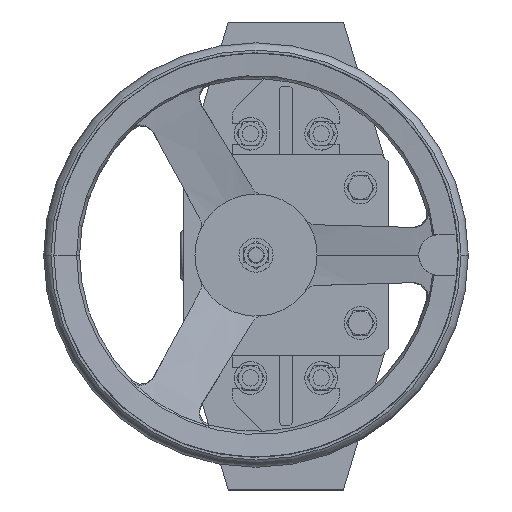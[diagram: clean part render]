
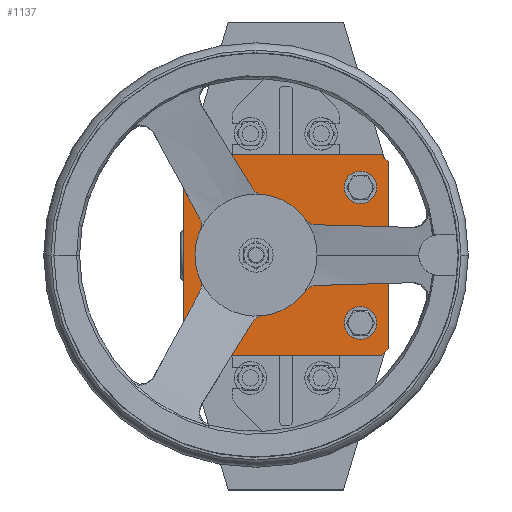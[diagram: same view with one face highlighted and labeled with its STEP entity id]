
A CAD part, top view. The second image highlights one B-rep face of the part: STEP entity #1137.
In plain terms, the highlighted planar face has unit normal (0, 0, 1).
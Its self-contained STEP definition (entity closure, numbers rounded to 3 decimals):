
#1137=ADVANCED_FACE('',(#3106,#3107,#3108,#3109,#3110,#3111),#3112,.T.);
#3106=FACE_BOUND('',#8298,.T.);
#3107=FACE_OUTER_BOUND('',#8299,.T.);
#3108=FACE_BOUND('',#8300,.T.);
#3109=FACE_BOUND('',#8301,.T.);
#3110=FACE_BOUND('',#8302,.T.);
#3111=FACE_BOUND('',#8303,.T.);
#3112=PLANE('',#8304);
#8298=EDGE_LOOP('',(#15369,#15370));
#8299=EDGE_LOOP('',(#15371,#15372,#15373,#15374,#15375,#15376,#15377,#15378));
#8300=EDGE_LOOP('',(#15379,#15380));
#8301=EDGE_LOOP('',(#15381,#15382));
#8302=EDGE_LOOP('',(#15383,#15384));
#8303=EDGE_LOOP('',(#15385,#15386));
#8304=AXIS2_PLACEMENT_3D('',#15387,#15388,#15389);
#15369=ORIENTED_EDGE('',*,*,#20154,.T.);
#15370=ORIENTED_EDGE('',*,*,#18251,.T.);
#15371=ORIENTED_EDGE('',*,*,#20168,.F.);
#15372=ORIENTED_EDGE('',*,*,#20169,.F.);
#15373=ORIENTED_EDGE('',*,*,#20170,.F.);
#15374=ORIENTED_EDGE('',*,*,#20171,.F.);
#15375=ORIENTED_EDGE('',*,*,#20172,.F.);
#15376=ORIENTED_EDGE('',*,*,#20173,.F.);
#15377=ORIENTED_EDGE('',*,*,#20174,.F.);
#15378=ORIENTED_EDGE('',*,*,#20175,.F.);
#15379=ORIENTED_EDGE('',*,*,#18243,.F.);
#15380=ORIENTED_EDGE('',*,*,#20176,.F.);
#15381=ORIENTED_EDGE('',*,*,#20177,.T.);
#15382=ORIENTED_EDGE('',*,*,#18223,.T.);
#15383=ORIENTED_EDGE('',*,*,#18203,.F.);
#15384=ORIENTED_EDGE('',*,*,#20178,.F.);
#15385=ORIENTED_EDGE('',*,*,#20179,.T.);
#15386=ORIENTED_EDGE('',*,*,#18183,.T.);
#15387=CARTESIAN_POINT('',(0.,0.,588.7));
#15388=DIRECTION('',(0.,0.,1.));
#15389=DIRECTION('',(1.,0.,0.));
#18183=EDGE_CURVE('',#21371,#21368,#21372,.T.);
#18203=EDGE_CURVE('',#21408,#21411,#21412,.T.);
#18223=EDGE_CURVE('',#21451,#21448,#21452,.T.);
#18243=EDGE_CURVE('',#21488,#21491,#21492,.T.);
#18251=EDGE_CURVE('',#21507,#21504,#21508,.T.);
#20154=EDGE_CURVE('',#21504,#21507,#24615,.T.);
#20168=EDGE_CURVE('',#24637,#24638,#24639,.T.);
#20169=EDGE_CURVE('',#24640,#24637,#24641,.T.);
#20170=EDGE_CURVE('',#24642,#24640,#24643,.T.);
#20171=EDGE_CURVE('',#24644,#24642,#24645,.T.);
#20172=EDGE_CURVE('',#24646,#24644,#24647,.T.);
#20173=EDGE_CURVE('',#24648,#24646,#24649,.T.);
#20174=EDGE_CURVE('',#24650,#24648,#24651,.T.);
#20175=EDGE_CURVE('',#24638,#24650,#24652,.T.);
#20176=EDGE_CURVE('',#21491,#21488,#24653,.T.);
#20177=EDGE_CURVE('',#21448,#21451,#24654,.T.);
#20178=EDGE_CURVE('',#21411,#21408,#24655,.T.);
#20179=EDGE_CURVE('',#21368,#21371,#24656,.T.);
#21368=VERTEX_POINT('',#26195);
#21371=VERTEX_POINT('',#26199);
#21372=CIRCLE('',#26200,12.);
#21408=VERTEX_POINT('',#26245);
#21411=VERTEX_POINT('',#26249);
#21412=CIRCLE('',#26250,12.);
#21448=VERTEX_POINT('',#26295);
#21451=VERTEX_POINT('',#26299);
#21452=CIRCLE('',#26300,12.);
#21488=VERTEX_POINT('',#26345);
#21491=VERTEX_POINT('',#26349);
#21492=CIRCLE('',#26350,12.);
#21504=VERTEX_POINT('',#26365);
#21507=VERTEX_POINT('',#26369);
#21508=CIRCLE('',#26370,20.);
#24615=CIRCLE('',#33615,20.);
#24637=VERTEX_POINT('',#33645);
#24638=VERTEX_POINT('',#33646);
#24639=LINE('',#33647,#33648);
#24640=VERTEX_POINT('',#33649);
#24641=LINE('',#33650,#33651);
#24642=VERTEX_POINT('',#33652);
#24643=LINE('',#33653,#33654);
#24644=VERTEX_POINT('',#33655);
#24645=LINE('',#33656,#33657);
#24646=VERTEX_POINT('',#33658);
#24647=LINE('',#33659,#33660);
#24648=VERTEX_POINT('',#33661);
#24649=LINE('',#33662,#33663);
#24650=VERTEX_POINT('',#33664);
#24651=LINE('',#33665,#33666);
#24652=LINE('',#33667,#33668);
#24653=CIRCLE('',#33669,12.);
#24654=CIRCLE('',#33670,12.);
#24655=CIRCLE('',#33671,12.);
#24656=CIRCLE('',#33672,12.);
#26195=CARTESIAN_POINT('',(-55.,-38.,588.7));
#26199=CARTESIAN_POINT('',(-55.,-62.,588.7));
#26200=AXIS2_PLACEMENT_3D('',#37206,#37207,#37208);
#26245=CARTESIAN_POINT('',(-55.,38.,588.7));
#26249=CARTESIAN_POINT('',(-55.,62.,588.7));
#26250=AXIS2_PLACEMENT_3D('',#37246,#37247,#37248);
#26295=CARTESIAN_POINT('',(55.,38.,588.7));
#26299=CARTESIAN_POINT('',(55.,62.,588.7));
#26300=AXIS2_PLACEMENT_3D('',#37286,#37287,#37288);
#26345=CARTESIAN_POINT('',(55.,-38.,588.7));
#26349=CARTESIAN_POINT('',(55.,-62.,588.7));
#26350=AXIS2_PLACEMENT_3D('',#37326,#37327,#37328);
#26365=CARTESIAN_POINT('',(-2.,0.,588.7));
#26369=CARTESIAN_POINT('',(-42.,0.,588.7));
#26370=AXIS2_PLACEMENT_3D('',#37342,#37343,#37344);
#33615=AXIS2_PLACEMENT_3D('',#40435,#40436,#40437);
#33645=CARTESIAN_POINT('',(70.5,74.,588.7));
#33646=CARTESIAN_POINT('',(75.5,69.,588.7));
#33647=CARTESIAN_POINT('',(72.625,71.875,588.7));
#33648=VECTOR('',#40461,10.);
#33649=CARTESIAN_POINT('',(-70.5,74.,588.7));
#33650=CARTESIAN_POINT('',(75.5,74.,588.7));
#33651=VECTOR('',#40462,10.);
#33652=CARTESIAN_POINT('',(-75.5,69.,588.7));
#33653=CARTESIAN_POINT('',(-72.625,71.875,588.7));
#33654=VECTOR('',#40463,10.);
#33655=CARTESIAN_POINT('',(-75.5,-69.,588.7));
#33656=CARTESIAN_POINT('',(-75.5,74.,588.7));
#33657=VECTOR('',#40464,10.);
#33658=CARTESIAN_POINT('',(-70.5,-74.,588.7));
#33659=CARTESIAN_POINT('',(-72.625,-71.875,588.7));
#33660=VECTOR('',#40465,10.);
#33661=CARTESIAN_POINT('',(70.5,-74.,588.7));
#33662=CARTESIAN_POINT('',(-75.5,-74.,588.7));
#33663=VECTOR('',#40466,10.);
#33664=CARTESIAN_POINT('',(75.5,-69.,588.7));
#33665=CARTESIAN_POINT('',(72.625,-71.875,588.7));
#33666=VECTOR('',#40467,10.);
#33667=CARTESIAN_POINT('',(75.5,-74.,588.7));
#33668=VECTOR('',#40468,10.);
#33669=AXIS2_PLACEMENT_3D('',#40469,#40470,#40471);
#33670=AXIS2_PLACEMENT_3D('',#40472,#40473,#40474);
#33671=AXIS2_PLACEMENT_3D('',#40475,#40476,#40477);
#33672=AXIS2_PLACEMENT_3D('',#40478,#40479,#40480);
#37206=CARTESIAN_POINT('',(-55.,-50.,588.7));
#37207=DIRECTION('',(0.,0.,-1.));
#37208=DIRECTION('',(0.,1.,0.));
#37246=CARTESIAN_POINT('',(-55.,50.,588.7));
#37247=DIRECTION('',(0.,0.,1.));
#37248=DIRECTION('',(0.,-1.,0.));
#37286=CARTESIAN_POINT('',(55.,50.,588.7));
#37287=DIRECTION('',(0.,0.,-1.));
#37288=DIRECTION('',(0.,-1.,0.));
#37326=CARTESIAN_POINT('',(55.,-50.,588.7));
#37327=DIRECTION('',(0.,0.,1.));
#37328=DIRECTION('',(0.,1.,0.));
#37342=CARTESIAN_POINT('',(-22.,0.,588.7));
#37343=DIRECTION('',(0.,0.,-1.));
#37344=DIRECTION('',(1.,0.,0.));
#40435=CARTESIAN_POINT('',(-22.,0.,588.7));
#40436=DIRECTION('',(0.,0.,-1.));
#40437=DIRECTION('',(1.,0.,0.));
#40461=DIRECTION('',(0.707,-0.707,0.));
#40462=DIRECTION('',(1.,0.,0.));
#40463=DIRECTION('',(0.707,0.707,0.));
#40464=DIRECTION('',(0.,1.,0.));
#40465=DIRECTION('',(-0.707,0.707,0.));
#40466=DIRECTION('',(-1.,0.,0.));
#40467=DIRECTION('',(-0.707,-0.707,0.));
#40468=DIRECTION('',(0.,-1.,0.));
#40469=CARTESIAN_POINT('',(55.,-50.,588.7));
#40470=DIRECTION('',(0.,0.,1.));
#40471=DIRECTION('',(0.,1.,0.));
#40472=CARTESIAN_POINT('',(55.,50.,588.7));
#40473=DIRECTION('',(0.,0.,-1.));
#40474=DIRECTION('',(0.,-1.,0.));
#40475=CARTESIAN_POINT('',(-55.,50.,588.7));
#40476=DIRECTION('',(0.,0.,1.));
#40477=DIRECTION('',(0.,-1.,0.));
#40478=CARTESIAN_POINT('',(-55.,-50.,588.7));
#40479=DIRECTION('',(0.,0.,-1.));
#40480=DIRECTION('',(0.,1.,0.));
